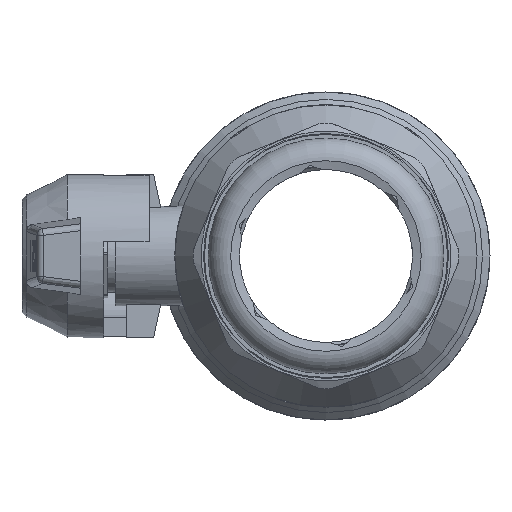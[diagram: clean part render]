
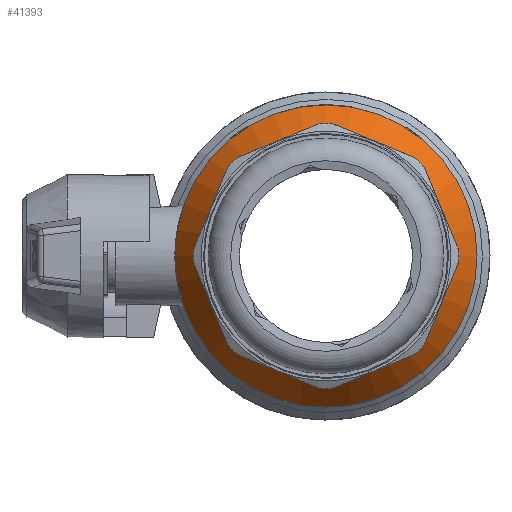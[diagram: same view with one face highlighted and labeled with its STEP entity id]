
A CAD part, left-side view. The second image highlights one B-rep face of the part: STEP entity #41393.
In plain terms, the highlighted conical face has half-angle 35 degrees and reference radius 32.695 mm.
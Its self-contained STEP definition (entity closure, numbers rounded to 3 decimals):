
#41362=CARTESIAN_POINT('',(-20.811,27.25,0.0));
#41363=VERTEX_POINT('',#41362);
#41364=CARTESIAN_POINT('',(-20.811,0.0,0.));
#41365=DIRECTION('',(1.0,0.0,0.0));
#41366=DIRECTION('',(0.0,1.0,0.0));
#41367=AXIS2_PLACEMENT_3D('',#41364,#41365,#41366);
#41368=CIRCLE('',#41367,27.25);
#41369=EDGE_CURVE('',#41363,#41363,#41368,.T.);
#41374=CARTESIAN_POINT('',(-13.035,0.,0.));
#41375=DIRECTION('',(1.0,0.0,0.0));
#41376=DIRECTION('',(0.0,0.0,-1.0));
#41377=AXIS2_PLACEMENT_3D('',#41374,#41375,#41376);
#41378=CONICAL_SURFACE('',#41377,32.695,35.);
#41379=ORIENTED_EDGE('',*,*,#41369,.T.);
#41380=EDGE_LOOP('',(#41379));
#41381=FACE_OUTER_BOUND('',#41380,.T.);
#41382=CARTESIAN_POINT('',(-12.171,33.3,0.0));
#41383=VERTEX_POINT('',#41382);
#41384=CARTESIAN_POINT('',(-12.171,0.,0.));
#41385=DIRECTION('',(1.0,0.0,0.0));
#41386=DIRECTION('',(0.0,1.0,0.0));
#41387=AXIS2_PLACEMENT_3D('',#41384,#41385,#41386);
#41388=CIRCLE('',#41387,33.3);
#41389=EDGE_CURVE('',#41383,#41383,#41388,.T.);
#41390=ORIENTED_EDGE('',*,*,#41389,.F.);
#41391=EDGE_LOOP('',(#41390));
#41392=FACE_BOUND('',#41391,.T.);
#41393=ADVANCED_FACE('',(#41381,#41392),#41378,.T.);
